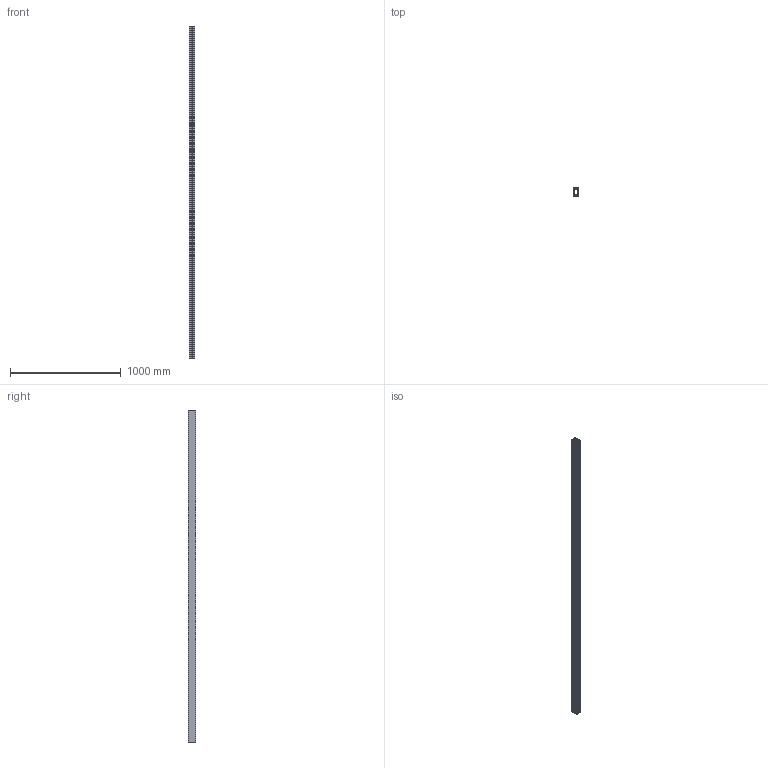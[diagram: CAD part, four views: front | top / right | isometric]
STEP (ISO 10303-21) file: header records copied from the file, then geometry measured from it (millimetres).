
FILE_DESCRIPTION (( 'STEP AP203' ), '1' );
FILE_NAME ('900.500.040.3000.STEP', '2018-03-09T13:06:17', ( '' ), ( '' ), 'SwSTEP 2.0', 'SolidWorks 2016', '' );
FILE_SCHEMA (( 'CONFIG_CONTROL_DESIGN' ));
Length unit declared in the file: millimetre
Products named in the file (1): 900.500.040.3000
Bounding box: 54 x 69.8 x 3000 mm (x, y, z)
Volume: 1894609.3 mm3; surface area: 3573344.5 mm2
Topology: 5 solids, 5 shells, 403 faces, 1179 edges, 786 vertices
Faces by surface type: plane 208, cylinder 195
Entity records: 13608 total; most frequent: DIRECTION 2377, CARTESIAN_POINT 2369, ORIENTED_EDGE 2358, EDGE_CURVE 1179, AXIS2_PLACEMENT_3D 794, LINE 789, VECTOR 789, VERTEX_POINT 786
